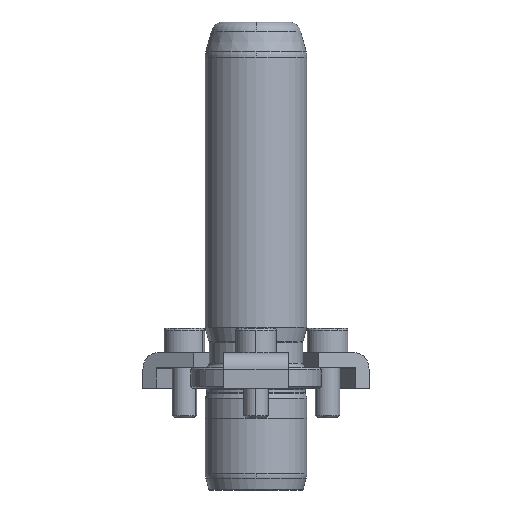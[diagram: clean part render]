
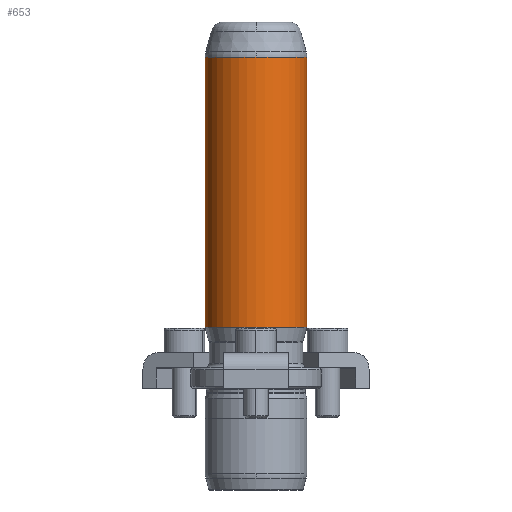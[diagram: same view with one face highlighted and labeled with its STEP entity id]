
A CAD part, front view. The second image highlights one B-rep face of the part: STEP entity #653.
In plain terms, the highlighted cylindrical face has radius 12.5 mm (diameter 25 mm), a partial arc.
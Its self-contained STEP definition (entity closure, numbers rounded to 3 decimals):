
#566=CARTESIAN_POINT('',(0.0,-12.5,81.342));
#567=VERTEX_POINT('',#566);
#594=CARTESIAN_POINT('',(-12.5,0.,81.342));
#595=VERTEX_POINT('',#594);
#603=CARTESIAN_POINT('',(0.0,0.,81.342));
#604=DIRECTION('',(0.0,0.0,1.0));
#605=DIRECTION('',(1.0,0.0,0.0));
#606=AXIS2_PLACEMENT_3D('',#603,#604,#605);
#607=CIRCLE('',#606,12.5);
#608=EDGE_CURVE('',#595,#567,#607,.T.);
#613=CARTESIAN_POINT('',(0.0,0.,48.171));
#614=DIRECTION('',(0.0,0.,1.0));
#615=DIRECTION('',(1.0,0.0,0.0));
#616=AXIS2_PLACEMENT_3D('',#613,#614,#615);
#617=CYLINDRICAL_SURFACE('',#616,12.5);
#618=CARTESIAN_POINT('',(12.5,0.,81.342));
#619=VERTEX_POINT('',#618);
#620=CARTESIAN_POINT('',(12.5,0.,15.0));
#621=VERTEX_POINT('',#620);
#622=CARTESIAN_POINT('',(12.5,0.,81.342));
#623=DIRECTION('',(0.0,0.0,-1.0));
#624=VECTOR('',#623,66.342);
#625=LINE('',#622,#624);
#626=EDGE_CURVE('',#619,#621,#625,.T.);
#627=ORIENTED_EDGE('',*,*,#626,.F.);
#628=CARTESIAN_POINT('',(0.0,0.,81.342));
#629=DIRECTION('',(0.0,0.0,1.0));
#630=DIRECTION('',(1.0,0.0,0.0));
#631=AXIS2_PLACEMENT_3D('',#628,#629,#630);
#632=CIRCLE('',#631,12.5);
#633=EDGE_CURVE('',#567,#619,#632,.T.);
#634=ORIENTED_EDGE('',*,*,#633,.F.);
#635=ORIENTED_EDGE('',*,*,#608,.F.);
#636=CARTESIAN_POINT('',(-12.5,0.,15.0));
#637=VERTEX_POINT('',#636);
#638=CARTESIAN_POINT('',(-12.5,0.,81.342));
#639=DIRECTION('',(0.0,0.0,-1.0));
#640=VECTOR('',#639,66.342);
#641=LINE('',#638,#640);
#642=EDGE_CURVE('',#595,#637,#641,.T.);
#643=ORIENTED_EDGE('',*,*,#642,.T.);
#644=CARTESIAN_POINT('',(0.0,0.,15.0));
#645=DIRECTION('',(0.0,0.0,1.0));
#646=DIRECTION('',(1.0,0.0,0.0));
#647=AXIS2_PLACEMENT_3D('',#644,#645,#646);
#648=CIRCLE('',#647,12.5);
#649=EDGE_CURVE('',#637,#621,#648,.T.);
#650=ORIENTED_EDGE('',*,*,#649,.T.);
#651=EDGE_LOOP('',(#627,#634,#635,#643,#650));
#652=FACE_OUTER_BOUND('',#651,.T.);
#653=ADVANCED_FACE('',(#652),#617,.T.);
